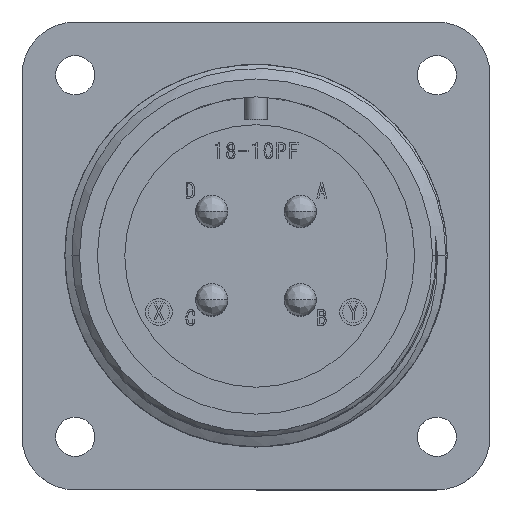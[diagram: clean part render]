
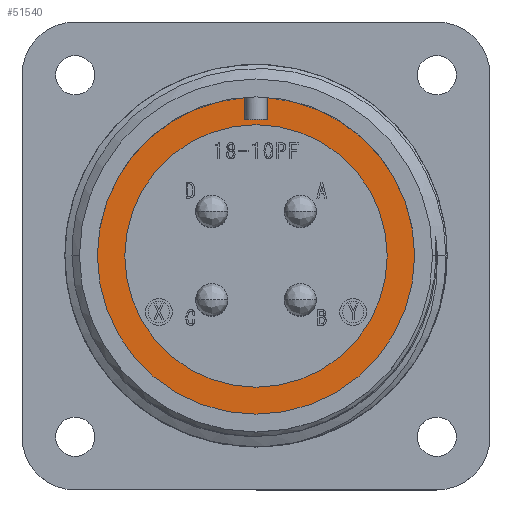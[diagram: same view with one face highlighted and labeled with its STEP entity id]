
A CAD part, top view. The second image highlights one B-rep face of the part: STEP entity #51540.
In plain terms, the highlighted planar face has unit normal (0, 0, 1).
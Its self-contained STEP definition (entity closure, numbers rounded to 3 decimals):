
#1399 = VERTEX_POINT ( 'NONE', #40881 ) ;
#4280 = FACE_BOUND ( 'NONE', #45721, .T. ) ;
#5508 = CIRCLE ( 'NONE', #12759, 9.795 ) ;
#6009 = VERTEX_POINT ( 'NONE', #19671 ) ;
#7066 = CARTESIAN_POINT ( 'NONE',  ( -9.795, 0., -19.18 ) ) ;
#8062 = EDGE_CURVE ( 'NONE', #54472, #31219, #16562, .T. ) ;
#8975 = CARTESIAN_POINT ( 'NONE',  ( 0., 10.16, -19.18 ) ) ;
#9154 = DIRECTION ( 'NONE',  ( 0., 0., -1. ) ) ;
#9495 = DIRECTION ( 'NONE',  ( 1., 0., 0. ) ) ;
#9883 = EDGE_CURVE ( 'NONE', #15918, #47414, #5508, .T. ) ;
#11604 = AXIS2_PLACEMENT_3D ( 'NONE', #35009, #9154, #39314 ) ;
#11837 = CARTESIAN_POINT ( 'NONE',  ( 9.795, 0., -19.18 ) ) ;
#11918 = LINE ( 'NONE', #22807, #37523 ) ;
#12759 = AXIS2_PLACEMENT_3D ( 'NONE', #50019, #24468, #54263 ) ;
#12828 = VECTOR ( 'NONE', #22247, 1000. ) ;
#13634 = DIRECTION ( 'NONE',  ( 0., 0., 1. ) ) ;
#15918 = VERTEX_POINT ( 'NONE', #7066 ) ;
#16336 = CARTESIAN_POINT ( 'NONE',  ( 0.825, 500000., -19.18 ) ) ;
#16562 = CIRCLE ( 'NONE', #46857, 11.84 ) ;
#17205 = FACE_OUTER_BOUND ( 'NONE', #39803, .T. ) ;
#17455 = DIRECTION ( 'NONE',  ( 0., 0., 1. ) ) ;
#17821 = CARTESIAN_POINT ( 'NONE',  ( 11.84, 0., -19.18 ) ) ;
#19060 = CIRCLE ( 'NONE', #49133, 11.84 ) ;
#19671 = CARTESIAN_POINT ( 'NONE',  ( -0.825, 10.16, -19.18 ) ) ;
#19750 = EDGE_CURVE ( 'NONE', #1399, #6009, #35692, .T. ) ;
#20787 = CARTESIAN_POINT ( 'NONE',  ( 0., 0., -19.18 ) ) ;
#22247 = DIRECTION ( 'NONE',  ( -1., 0., 0. ) ) ;
#22807 = CARTESIAN_POINT ( 'NONE',  ( -0.825, 500000., -19.18 ) ) ;
#23784 = EDGE_CURVE ( 'NONE', #47414, #15918, #52674, .T. ) ;
#24011 = CARTESIAN_POINT ( 'NONE',  ( -0.825, 11.811, -19.18 ) ) ;
#24468 = DIRECTION ( 'NONE',  ( 0., 0., -1. ) ) ;
#25179 = DIRECTION ( 'NONE',  ( 1., 0., 0. ) ) ;
#26971 = ORIENTED_EDGE ( 'NONE', *, *, #19750, .T. ) ;
#27178 = DIRECTION ( 'NONE',  ( 0., 1., 0. ) ) ;
#27358 = ORIENTED_EDGE ( 'NONE', *, *, #9883, .T. ) ;
#29394 = DIRECTION ( 'NONE',  ( 0., -1., 0. ) ) ;
#29420 = ORIENTED_EDGE ( 'NONE', *, *, #23784, .T. ) ;
#30894 = CARTESIAN_POINT ( 'NONE',  ( 0., 11.84, -19.18 ) ) ;
#31083 = PLANE ( 'NONE',  #53817 ) ;
#31219 = VERTEX_POINT ( 'NONE', #55381 ) ;
#31768 = EDGE_CURVE ( 'NONE', #37796, #54472, #19060, .T. ) ;
#32174 = ORIENTED_EDGE ( 'NONE', *, *, #50086, .T. ) ;
#32868 = VECTOR ( 'NONE', #29394, 1000. ) ;
#33490 = ORIENTED_EDGE ( 'NONE', *, *, #31768, .T. ) ;
#35009 = CARTESIAN_POINT ( 'NONE',  ( 0., 0., -19.18 ) ) ;
#35335 = DIRECTION ( 'NONE',  ( 0., 0., 1. ) ) ;
#35692 = LINE ( 'NONE', #8975, #12828 ) ;
#35802 = ORIENTED_EDGE ( 'NONE', *, *, #8062, .T. ) ;
#36427 = ORIENTED_EDGE ( 'NONE', *, *, #53867, .T. ) ;
#37523 = VECTOR ( 'NONE', #27178, 1000. ) ;
#37796 = VERTEX_POINT ( 'NONE', #41625 ) ;
#39314 = DIRECTION ( 'NONE',  ( 1., 0., 0. ) ) ;
#39363 = CARTESIAN_POINT ( 'NONE',  ( 0., 0., -19.18 ) ) ;
#39803 = EDGE_LOOP ( 'NONE', ( #26971, #47736, #32174, #33490, #35802, #36427 ) ) ;
#39926 = AXIS2_PLACEMENT_3D ( 'NONE', #43146, #17455, #47473 ) ;
#40881 = CARTESIAN_POINT ( 'NONE',  ( 0.825, 10.16, -19.18 ) ) ;
#41625 = CARTESIAN_POINT ( 'NONE',  ( -11.84, 0., -19.18 ) ) ;
#42861 = LINE ( 'NONE', #16336, #32868 ) ;
#43146 = CARTESIAN_POINT ( 'NONE',  ( 0., 0., -19.18 ) ) ;
#43591 = DIRECTION ( 'NONE',  ( 1., 0., 0. ) ) ;
#45721 = EDGE_LOOP ( 'NONE', ( #29420, #27358 ) ) ;
#46857 = AXIS2_PLACEMENT_3D ( 'NONE', #20787, #50734, #25179 ) ;
#47414 = VERTEX_POINT ( 'NONE', #11837 ) ;
#47473 = DIRECTION ( 'NONE',  ( 1., 0., 0. ) ) ;
#47736 = ORIENTED_EDGE ( 'NONE', *, *, #48692, .T. ) ;
#48692 = EDGE_CURVE ( 'NONE', #6009, #50827, #11918, .T. ) ;
#49133 = AXIS2_PLACEMENT_3D ( 'NONE', #39363, #13634, #43591 ) ;
#50019 = CARTESIAN_POINT ( 'NONE',  ( 0., 0., -19.18 ) ) ;
#50086 = EDGE_CURVE ( 'NONE', #50827, #37796, #51363, .T. ) ;
#50734 = DIRECTION ( 'NONE',  ( 0., 0., 1. ) ) ;
#50827 = VERTEX_POINT ( 'NONE', #24011 ) ;
#51363 = CIRCLE ( 'NONE', #39926, 11.84 ) ;
#51540 = ADVANCED_FACE ( 'NONE', ( #17205, #4280 ), #31083, .T. ) ;
#52674 = CIRCLE ( 'NONE', #11604, 9.795 ) ;
#53817 = AXIS2_PLACEMENT_3D ( 'NONE', #30894, #35335, #9495 ) ;
#53867 = EDGE_CURVE ( 'NONE', #31219, #1399, #42861, .T. ) ;
#54263 = DIRECTION ( 'NONE',  ( 1., 0., 0. ) ) ;
#54472 = VERTEX_POINT ( 'NONE', #17821 ) ;
#55381 = CARTESIAN_POINT ( 'NONE',  ( 0.825, 11.811, -19.18 ) ) ;
